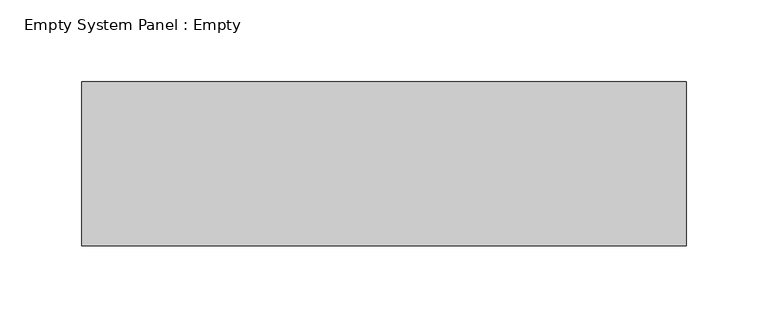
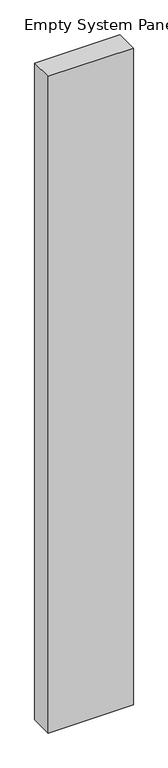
"""IFC4 building model written with IfcOpenShell, lengths in millimetres: plate geometry, Empty System Panel : Empty."""

from ifc_helpers import new_model, si_unit, origin, origin_with_axes, place, context, project, spatial, polyline, outline, extrude, source, transform, mapped, element, save


def empty_system_panel_empty_62c335ea(model_context):
    return source(origin(), model_context, "Body", "SweptSolid", [
        extrude(outline(polyline([(184.25, -50.0), (-184.25, -50.0), (-184.25, 50.0), (184.25, 50.0), (184.25, -50.0)])), origin_with_axes(), (0.0, 0.0, 1.0), 3000.0),
    ])


if __name__ == "__main__":
    model = new_model("IFC4")
    model_context = context("Model", 3, world=origin())
    ifc_project = project(units=[si_unit("LENGTHUNIT", "METRE", prefix="MILLI")], contexts=[model_context])
    site = spatial("IfcSite", under=ifc_project)
    building = spatial("IfcBuilding", under=site)
    placement = place(None, origin())
    empty_system_panel_empty_shape = empty_system_panel_empty_62c335ea(model_context)
    element("IfcPlate", 1, ObjectType="Empty System Panel : Empty", at=placement, inside=building, context=model_context, shape_type="MappedRepresentation", body=[
        mapped(empty_system_panel_empty_shape, transform((0.0, 0.0, 0.0), x_axis=(1.0, 0.0, 0.0), y_axis=(0.0, 1.0, 0.0), z_axis=(0.0, 0.0, 1.0))),
    ])
    save(model, "model.ifc")
